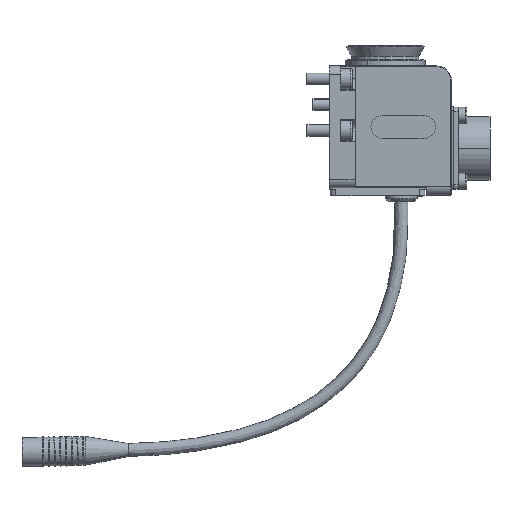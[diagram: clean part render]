
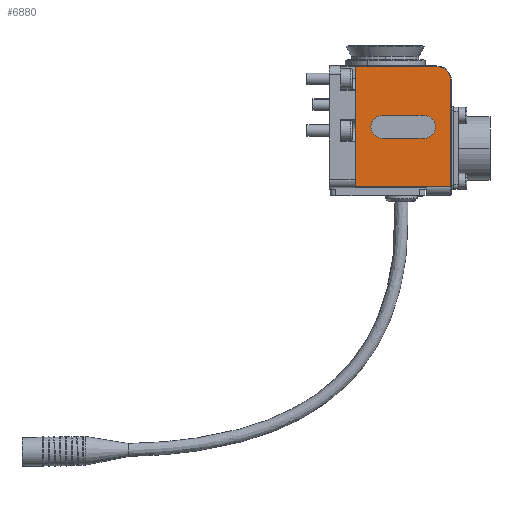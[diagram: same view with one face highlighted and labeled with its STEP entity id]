
A CAD part, left-side view. The second image highlights one B-rep face of the part: STEP entity #6880.
In plain terms, the highlighted planar face has unit normal (-1, 0, 0).
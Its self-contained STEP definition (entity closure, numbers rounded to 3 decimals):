
#6 = CARTESIAN_POINT ( 'NONE',  ( -20., -21.05, -5. ) ) ;
#370 = CARTESIAN_POINT ( 'NONE',  ( -20., 12.25, -45. ) ) ;
#413 = ORIENTED_EDGE ( 'NONE', *, *, #19742, .T. ) ;
#838 = DIRECTION ( 'NONE',  ( 0., -1., 0. ) ) ;
#1160 = CARTESIAN_POINT ( 'NONE',  ( -20., 12.25, -42. ) ) ;
#1260 = DIRECTION ( 'NONE',  ( 0., -1., 0. ) ) ;
#1332 = CARTESIAN_POINT ( 'NONE',  ( -20., -11.75, -17.25 ) ) ;
#1823 = VERTEX_POINT ( 'NONE', #6 ) ;
#2039 = CARTESIAN_POINT ( 'NONE',  ( -20., 12.25, -0.2 ) ) ;
#2144 = AXIS2_PLACEMENT_3D ( 'NONE', #26580, #17929, #838 ) ;
#2627 = DIRECTION ( 'NONE',  ( -1., 0., 0. ) ) ;
#2940 = FACE_BOUND ( 'NONE', #36217, .T. ) ;
#3066 = VECTOR ( 'NONE', #8109, 1000. ) ;
#3279 = DIRECTION ( 'NONE',  ( 0., 0., 1. ) ) ;
#3649 = DIRECTION ( 'NONE',  ( -1., 0., 0. ) ) ;
#4825 = CIRCLE ( 'NONE', #15293, 4.8 ) ;
#4921 = LINE ( 'NONE', #32996, #20169 ) ;
#5254 = AXIS2_PLACEMENT_3D ( 'NONE', #33764, #27876, #33298 ) ;
#5415 = CARTESIAN_POINT ( 'NONE',  ( -20., 2.75, -17.25 ) ) ;
#5499 = VERTEX_POINT ( 'NONE', #20376 ) ;
#5586 = PLANE ( 'NONE',  #18809 ) ;
#5795 = CARTESIAN_POINT ( 'NONE',  ( -20., -21.25, -42. ) ) ;
#5867 = VECTOR ( 'NONE', #23363, 1000. ) ;
#5908 = CIRCLE ( 'NONE', #9239, 4. ) ;
#6235 = DIRECTION ( 'NONE',  ( 0., -1., 0. ) ) ;
#6551 = VERTEX_POINT ( 'NONE', #5415 ) ;
#6635 = CARTESIAN_POINT ( 'NONE',  ( -20., -15.75, -21.25 ) ) ;
#6880 = ADVANCED_FACE ( 'NONE', ( #26189, #2940 ), #5586, .T. ) ;
#7674 = VECTOR ( 'NONE', #31835, 1000. ) ;
#8109 = DIRECTION ( 'NONE',  ( 0., -1., 0. ) ) ;
#8822 = EDGE_CURVE ( 'NONE', #6551, #19782, #27040, .T. ) ;
#9239 = AXIS2_PLACEMENT_3D ( 'NONE', #10175, #18844, #21737 ) ;
#9663 = EDGE_CURVE ( 'NONE', #10287, #18535, #33261, .T. ) ;
#10175 = CARTESIAN_POINT ( 'NONE',  ( -20., -11.75, -21.25 ) ) ;
#10287 = VERTEX_POINT ( 'NONE', #1160 ) ;
#10343 = VERTEX_POINT ( 'NONE', #6635 ) ;
#12151 = CARTESIAN_POINT ( 'NONE',  ( -20., -16.25, -0.2 ) ) ;
#12389 = ORIENTED_EDGE ( 'NONE', *, *, #33969, .T. ) ;
#14448 = EDGE_LOOP ( 'NONE', ( #27863, #413, #36437, #20941, #27744 ) ) ;
#14469 = LINE ( 'NONE', #29161, #21628 ) ;
#14586 = DIRECTION ( 'NONE',  ( 0., -1., 0. ) ) ;
#15293 = AXIS2_PLACEMENT_3D ( 'NONE', #31899, #3649, #6235 ) ;
#17929 = DIRECTION ( 'NONE',  ( -1., 0., 0. ) ) ;
#18529 = LINE ( 'NONE', #2039, #21667 ) ;
#18535 = VERTEX_POINT ( 'NONE', #27896 ) ;
#18809 = AXIS2_PLACEMENT_3D ( 'NONE', #370, #2627, #14586 ) ;
#18844 = DIRECTION ( 'NONE',  ( -1., 0., 0. ) ) ;
#19742 = EDGE_CURVE ( 'NONE', #18535, #1823, #14469, .T. ) ;
#19782 = VERTEX_POINT ( 'NONE', #23664 ) ;
#20169 = VECTOR ( 'NONE', #1260, 1000. ) ;
#20376 = CARTESIAN_POINT ( 'NONE',  ( -20., -11.75, -25.25 ) ) ;
#20941 = ORIENTED_EDGE ( 'NONE', *, *, #30365, .T. ) ;
#20998 = EDGE_CURVE ( 'NONE', #10287, #29104, #24239, .T. ) ;
#21149 = CARTESIAN_POINT ( 'NONE',  ( -20., 12.25, -0.2 ) ) ;
#21628 = VECTOR ( 'NONE', #3279, 1000. ) ;
#21667 = VECTOR ( 'NONE', #37000, 1000. ) ;
#21737 = DIRECTION ( 'NONE',  ( 0., -1., 0. ) ) ;
#22419 = CARTESIAN_POINT ( 'NONE',  ( -20., 2.75, -17.25 ) ) ;
#23363 = DIRECTION ( 'NONE',  ( 0., 0., 1. ) ) ;
#23664 = CARTESIAN_POINT ( 'NONE',  ( -20., 2.75, -25.25 ) ) ;
#23735 = CARTESIAN_POINT ( 'NONE',  ( -20., 12.25, -45. ) ) ;
#24239 = LINE ( 'NONE', #23735, #5867 ) ;
#25333 = CIRCLE ( 'NONE', #5254, 4. ) ;
#25793 = EDGE_CURVE ( 'NONE', #1823, #36215, #4825, .T. ) ;
#26189 = FACE_OUTER_BOUND ( 'NONE', #14448, .T. ) ;
#26580 = CARTESIAN_POINT ( 'NONE',  ( -20., 2.75, -21.25 ) ) ;
#26986 = EDGE_CURVE ( 'NONE', #10343, #28451, #25333, .T. ) ;
#27040 = CIRCLE ( 'NONE', #2144, 4. ) ;
#27744 = ORIENTED_EDGE ( 'NONE', *, *, #20998, .F. ) ;
#27863 = ORIENTED_EDGE ( 'NONE', *, *, #9663, .T. ) ;
#27876 = DIRECTION ( 'NONE',  ( -1., 0., 0. ) ) ;
#27896 = CARTESIAN_POINT ( 'NONE',  ( -20., -21.05, -42. ) ) ;
#28451 = VERTEX_POINT ( 'NONE', #1332 ) ;
#28482 = ORIENTED_EDGE ( 'NONE', *, *, #8822, .F. ) ;
#29096 = ORIENTED_EDGE ( 'NONE', *, *, #26986, .F. ) ;
#29104 = VERTEX_POINT ( 'NONE', #21149 ) ;
#29161 = CARTESIAN_POINT ( 'NONE',  ( -20., -21.05, -45. ) ) ;
#30365 = EDGE_CURVE ( 'NONE', #36215, #29104, #18529, .T. ) ;
#31823 = EDGE_CURVE ( 'NONE', #5499, #10343, #5908, .T. ) ;
#31835 = DIRECTION ( 'NONE',  ( 0., -1., 0. ) ) ;
#31899 = CARTESIAN_POINT ( 'NONE',  ( -20., -16.25, -5. ) ) ;
#32996 = CARTESIAN_POINT ( 'NONE',  ( -20., 2.75, -25.25 ) ) ;
#33261 = LINE ( 'NONE', #5795, #7674 ) ;
#33298 = DIRECTION ( 'NONE',  ( 0., -1., 0. ) ) ;
#33764 = CARTESIAN_POINT ( 'NONE',  ( -20., -11.75, -21.25 ) ) ;
#33920 = LINE ( 'NONE', #22419, #3066 ) ;
#33969 = EDGE_CURVE ( 'NONE', #6551, #28451, #33920, .T. ) ;
#34227 = ORIENTED_EDGE ( 'NONE', *, *, #36846, .F. ) ;
#34896 = ORIENTED_EDGE ( 'NONE', *, *, #31823, .F. ) ;
#36215 = VERTEX_POINT ( 'NONE', #12151 ) ;
#36217 = EDGE_LOOP ( 'NONE', ( #28482, #12389, #29096, #34896, #34227 ) ) ;
#36437 = ORIENTED_EDGE ( 'NONE', *, *, #25793, .T. ) ;
#36846 = EDGE_CURVE ( 'NONE', #19782, #5499, #4921, .T. ) ;
#37000 = DIRECTION ( 'NONE',  ( 0., 1., 0. ) ) ;
